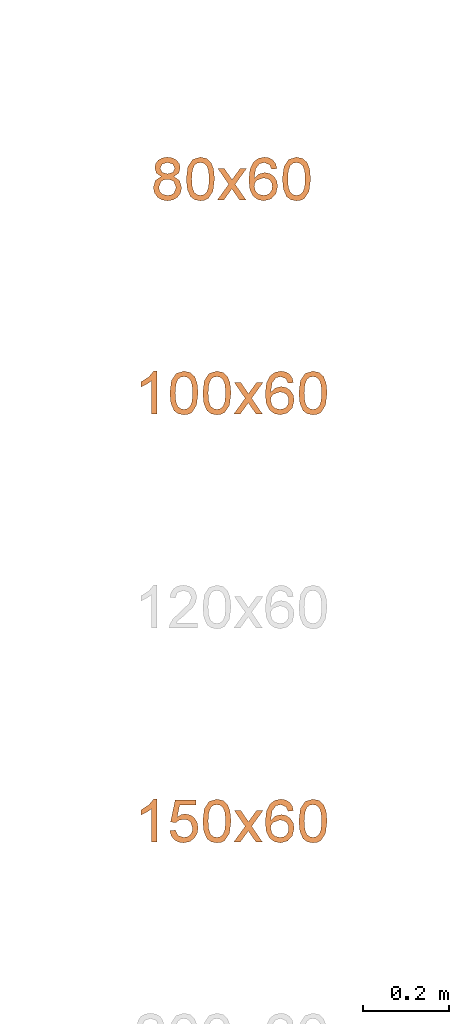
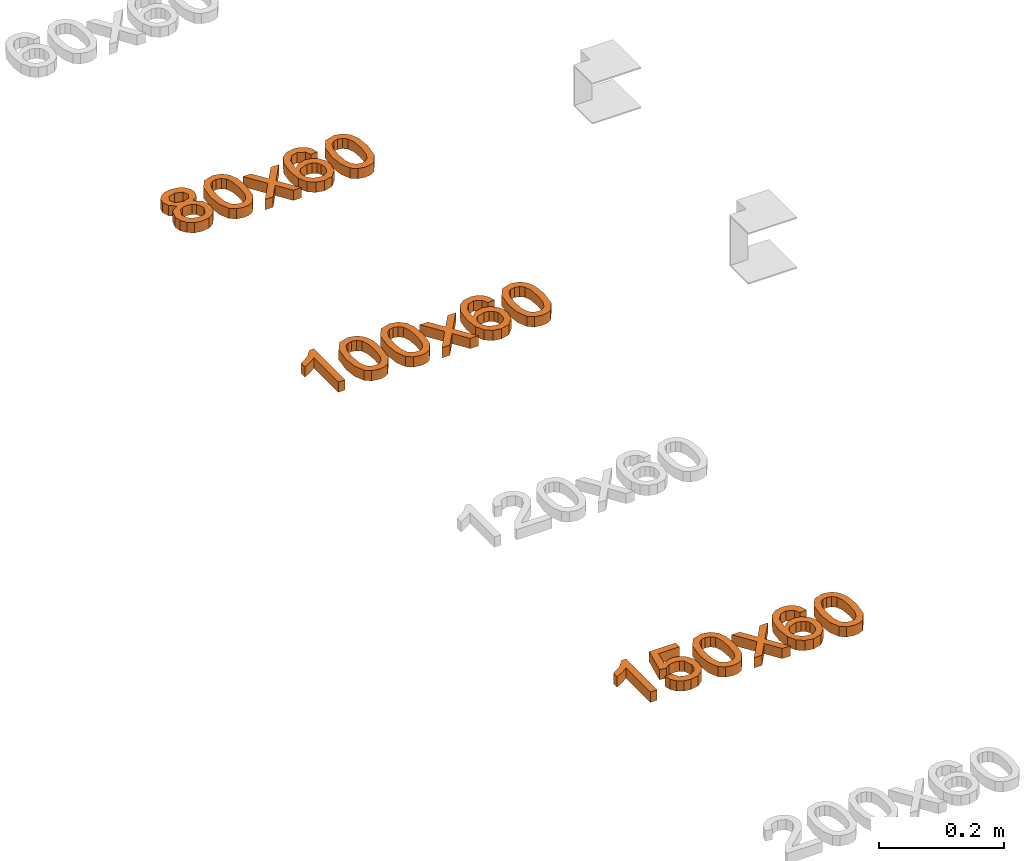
# One storey, part 53 of 71: 3 proxies.
"""IFC2X3 building model written with IfcOpenShell, lengths in millimetres."""

from ifc_helpers import new_model, entity, si_unit, converted_unit, derived_unit, direction, frame, origin, place, context, subcontext, project, spatial, polyline, outline, extrude, element, save


model = new_model("IFC2X3")

# Units and contexts
model_context = context("Model", 3, precision=0.01, world=origin(), true_north=direction((6.12303176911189e-17, 1.0)))
body_context = subcontext(model_context, "Body", "Model", "MODEL_VIEW")
ifc_project = project(units=[si_unit("LENGTHUNIT", "METRE", prefix="MILLI"), si_unit("AREAUNIT", "SQUARE_METRE"), si_unit("VOLUMEUNIT", "CUBIC_METRE"), converted_unit("PLANEANGLEUNIT", "DEGREE", entity("IfcRatioMeasure", 0.0174532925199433), si_unit("PLANEANGLEUNIT", "RADIAN"), dimensions=[0, 0, 0, 0, 0, 0, 0]), si_unit("MASSUNIT", "GRAM", prefix="KILO"), derived_unit("MASSDENSITYUNIT", [(si_unit("MASSUNIT", "GRAM", prefix="KILO"), 1), (si_unit("LENGTHUNIT", "METRE"), -3)]), si_unit("TIMEUNIT", "SECOND"), si_unit("FREQUENCYUNIT", "HERTZ"), si_unit("THERMODYNAMICTEMPERATUREUNIT", "DEGREE_CELSIUS"), derived_unit("THERMALTRANSMITTANCEUNIT", [(si_unit("MASSUNIT", "GRAM", prefix="KILO"), 1), (si_unit("THERMODYNAMICTEMPERATUREUNIT", "KELVIN"), -1), (si_unit("TIMEUNIT", "SECOND"), -3)]), derived_unit("VOLUMETRICFLOWRATEUNIT", [(si_unit("LENGTHUNIT", "METRE"), 3), (si_unit("TIMEUNIT", "SECOND"), -1)]), si_unit("ELECTRICCURRENTUNIT", "AMPERE"), si_unit("ELECTRICVOLTAGEUNIT", "VOLT"), si_unit("POWERUNIT", "WATT"), si_unit("FORCEUNIT", "NEWTON", prefix="KILO"), si_unit("ILLUMINANCEUNIT", "LUX"), si_unit("LUMINOUSFLUXUNIT", "LUMEN"), si_unit("LUMINOUSINTENSITYUNIT", "CANDELA"), derived_unit("USERDEFINED", [(si_unit("MASSUNIT", "GRAM", prefix="KILO"), -1), (si_unit("LENGTHUNIT", "METRE"), -2), (si_unit("TIMEUNIT", "SECOND"), 3), (si_unit("LUMINOUSFLUXUNIT", "LUMEN"), 1)]), derived_unit("LINEARVELOCITYUNIT", [(si_unit("LENGTHUNIT", "METRE"), 1), (si_unit("TIMEUNIT", "SECOND"), -1)]), si_unit("PRESSUREUNIT", "PASCAL"), derived_unit("USERDEFINED", [(si_unit("LENGTHUNIT", "METRE"), -2), (si_unit("MASSUNIT", "GRAM", prefix="KILO"), 1), (si_unit("TIMEUNIT", "SECOND"), -2)])], contexts=[model_context])

# Site, building, storey
site_placement = place(None, origin())
site = spatial("IfcSite", under=ifc_project, at=site_placement, Name="Default", CompositionType="ELEMENT")
building_placement = place(site_placement, origin())
building = spatial("IfcBuilding", under=site, at=building_placement, Name="Наименование здания", CompositionType="ELEMENT")
storey_placement = place(building_placement, origin())
storey = spatial("IfcBuildingStorey", under=building, at=storey_placement, Name="Этаж 01", CompositionType="ELEMENT", Elevation=0.0)

# Proxies
proxy_1_placement = place(storey_placement, origin())
element("IfcBuildingElementProxy", 1, at=proxy_1_placement, inside=storey, Name="Текст модели:100 мм Arial", ObjectType="Текст модели:100 мм Arial", context=body_context, shape_type="SweptSolid", body=[
    extrude(outline(polyline([(10.1224324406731, -11.221212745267), (26.4477736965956, -11.221212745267), (39.6861381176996, -0.0909413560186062), (44.6322314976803, 11.3078156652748), (44.5856416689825, 23.4168603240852), (39.6073830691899, 34.8346290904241), (29.7584701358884, 44.1595584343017), (17.4236057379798, 49.7956565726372), (4.9874927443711, 50.1469317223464), (-6.20047708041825, 45.7236060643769), (-14.790911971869, 37.0359017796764), (-20.0781666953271, 21.005684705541), (-14.5070621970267, 5.37692494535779), (-28.068405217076, 5.15563707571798), (-37.7221714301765, -2.60845010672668), (-41.5236361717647, -11.9357006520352), (-41.0036870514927, -22.2232653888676), (-36.1916154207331, -32.1870777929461), (-27.1167126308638, -40.5430713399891), (-16.0503295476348, -45.8123091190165), (-5.18246445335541, -46.570678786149), (4.38453303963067, -43.2361071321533), (11.5483133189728, -36.2265209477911), (15.2516244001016, -24.0826582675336), (10.1224324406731, -11.221212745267)]), holes=[polyline([(1.34077476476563, -28.9039041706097), (-7.53771017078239, -33.981587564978), (-20.2415350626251, -30.033997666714), (-28.5905650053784, -19.69028196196), (-26.9800933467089, -9.13787919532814), (-18.1108932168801, -3.87648928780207), (-5.45128168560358, -7.82385811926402), (3.15927028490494, -18.2403048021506), (1.34077476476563, -28.9039041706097)]), polyline([(29.0262968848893, 6.5605166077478), (17.1806533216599, -1.51571690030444), (9.6849412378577, -1.27757268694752), (1.95268767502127, 2.3288558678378), (-4.46267094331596, 8.2788688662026), (-7.64161156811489, 15.301055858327), (-4.59707955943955, 29.6929468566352), (7.31333657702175, 37.7994665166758), (14.8367372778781, 37.4872096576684), (22.6595729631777, 33.8012523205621), (30.3730358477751, 25.5864099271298), (32.5711030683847, 15.5727469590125), (29.0262968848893, 6.5605166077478)])]), frame((18091.8607415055, -411.654222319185, 0.0), z_axis=(0.0, 0.0, 1.0), x_axis=(-0.829266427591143, -0.558853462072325, 0.0)), (0.0, 0.0, 1.0), 20.0),
    extrude(outline(polyline([(-7.02884310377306, -33.349067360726), (17.5323805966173, -33.349067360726), (35.1984171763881, -27.6137612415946), (43.3439841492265, -18.4876517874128), (47.0516941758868, -5.75150665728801), (46.7162020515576, 4.4863820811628), (43.4465778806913, 13.095528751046), (27.9444305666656, 25.6659118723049), (-0.314338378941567, 32.2325535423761), (-24.0296505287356, 32.3678288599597), (-39.4143020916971, 28.0260881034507), (-49.7293680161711, 18.9002174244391), (-54.4436715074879, 4.63998875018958), (-50.8676582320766, -14.1301059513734), (-35.4058547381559, -26.7333390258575), (-7.02884310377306, -33.349067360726)]), holes=[polyline([(-5.77428774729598, -20.8548320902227), (-25.0157644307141, -17.356286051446), (-36.7257089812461, -11.571792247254), (-41.0962588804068, -4.77599682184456), (-41.9669219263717, 3.21464792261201), (-39.2244253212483, 11.2791292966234), (-32.8654063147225, 17.222925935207), (-20.9698370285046, 20.2947501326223), (-1.61768958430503, 19.7433141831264), (17.8514140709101, 16.2707701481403), (28.7803640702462, 10.7141596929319), (33.5546988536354, 3.61815959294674), (34.5599568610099, -4.47255337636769), (31.9421230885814, -12.1923199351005), (25.8471825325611, -18.1754808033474), (14.0250679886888, -21.4027476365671), (-5.77428774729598, -20.8548320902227)])]), frame((18169.7029366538, -417.512078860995, 0.0), z_axis=(0.0, 0.0, 1.0), x_axis=(0.1018515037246, -0.994799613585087, 0.0)), (0.0, 0.0, 1.0), 20.0),
    extrude(outline(polyline([(-34.530221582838, -38.4265006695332), (-19.422534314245, -38.4265006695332), (-0.341721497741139, -12.0616243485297), (2.47870713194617, -16.1328517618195), (17.8561745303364, -38.4265006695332), (32.9638617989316, -38.4265006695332), (7.40832586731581, -1.34399555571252), (33.944880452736, 35.3461020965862), (18.8371931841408, 35.3461020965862), (4.95577923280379, 16.1671874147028), (0.0261604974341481, 9.34910777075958), (-5.66374769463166, 17.6877663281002), (-17.8529044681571, 35.3461020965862), (-32.9605917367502, 35.3461020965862), (-7.6993614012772, -1.34399555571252), (-34.530221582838, -38.4265006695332)])), frame((18242.5445935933, -424.908755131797, 0.0)), (0.0, 0.0, 1.0), 20.0),
    extrude(outline(polyline([(6.79275401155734, -32.5027761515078), (18.3659045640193, -32.5027761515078), (28.1525204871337, -28.8011371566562), (35.631293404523, -21.7178704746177), (40.280914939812, -11.5729874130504), (41.4130789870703, 3.2366707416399), (36.1391243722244, 16.3729018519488), (21.8599739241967, 28.8803269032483), (-1.50836821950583, 38.2054593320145), (-23.6059131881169, 41.7609274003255), (-39.9814227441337, 38.5965283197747), (-51.1650797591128, 29.9216784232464), (-57.6870671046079, 16.9457940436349), (-57.9805556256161, -0.0494879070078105), (-49.2081886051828, -14.3141019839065), (-33.6167855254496, -22.935056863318), (-20.6265742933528, -24.2502330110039), (-8.97800352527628, -20.6254922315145), (0.0919027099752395, -13.0350962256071), (5.34612034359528, -2.45330669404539), (5.85483161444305, 11.6447254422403), (-0.843339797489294, 24.991063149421), (19.7707676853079, 15.5765036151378), (28.4840991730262, 4.26766164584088), (28.3893512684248, -7.46374532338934), (19.9956250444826, -18.1936336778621), (8.63303585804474, -19.9825396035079), (6.79275401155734, -32.5027761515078)]), holes=[polyline([(-18.758671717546, 29.9549594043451), (-11.632811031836, 26.3613362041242), (-6.94154076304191, 20.2038317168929), (-5.85783236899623, 4.13761066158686), (-9.48331864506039, -3.95286412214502), (-15.1077394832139, -9.26901644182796), (-22.3091633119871, -11.5969098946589), (-30.6656585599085, -10.7226080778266), (-38.6094491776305, -7.06141592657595), (-43.863709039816, -1.22509865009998), (-46.1835287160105, 6.17768396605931), (-45.323998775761, 14.5382721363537), (-39.690117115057, 24.7221971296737), (-30.0168134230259, 30.0585493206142), (-18.758671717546, 29.9549594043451)])]), frame((18318.2025234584, -404.787517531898, 0.0), z_axis=(0.0, 0.0, 1.0), x_axis=(-0.267015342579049, 0.963692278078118, 0.0)), (0.0, 0.0, 1.0), 20.0),
    extrude(outline(polyline([(-7.02884310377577, -33.3490673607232), (17.5323805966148, -33.3490673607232), (35.1984171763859, -27.6137612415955), (43.3439841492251, -18.4876517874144), (47.0516941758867, -5.75150665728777), (46.7162020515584, 4.48638208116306), (43.4465778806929, 13.0955287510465), (27.9444305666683, 25.6659118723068), (-0.314338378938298, 32.2325535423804), (-24.0296505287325, 32.367828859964), (-39.4143020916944, 28.0260881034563), (-49.7293680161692, 18.9002174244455), (-54.4436715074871, 4.6399887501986), (-50.8676582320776, -14.1301059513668), (-35.4058547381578, -26.7333390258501), (-7.02884310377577, -33.3490673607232)]), holes=[polyline([(-5.77428774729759, -20.85483209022), (-25.0157644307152, -17.3562860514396), (-36.7257089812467, -11.5717922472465), (-41.0962588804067, -4.77599682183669), (-41.9669219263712, 3.2146479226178), (-39.2244253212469, 11.2791292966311), (-32.8654063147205, 17.2229259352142), (-20.9698370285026, 20.2947501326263), (-1.61768958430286, 19.7433141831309), (17.851414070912, 16.270770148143), (28.7803640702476, 10.7141596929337), (33.5546988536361, 3.61815959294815), (34.5599568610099, -4.47255337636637), (31.9421230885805, -12.1923199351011), (25.8471825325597, -18.1754808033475), (14.0250679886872, -21.4027476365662), (-5.77428774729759, -20.85483209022)])]), frame((18394.1600046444, -417.512078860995, 0.0), z_axis=(0.0, 0.0, 1.0), x_axis=(0.101851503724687, -0.994799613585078, 0.0)), (0.0, 0.0, 1.0), 20.0),
])
proxy_2_placement = place(storey_placement, origin())
element("IfcBuildingElementProxy", 2, at=proxy_2_placement, inside=storey, Name="Текст модели:100 мм Arial", ObjectType="Текст модели:100 мм Arial", context=body_context, shape_type="SweptSolid", body=[
    extrude(outline(polyline([(-63.8793021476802, -16.9184842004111), (36.5770080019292, -16.9184842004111), (36.5770080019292, -8.82508030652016), (23.2106288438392, 2.34626961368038), (11.4629304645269, 20.7526321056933), (-0.407395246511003, 20.7526321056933), (5.93243780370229, 7.53340574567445), (14.4059864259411, -4.3614454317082), (-63.8793021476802, -4.3614454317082), (-63.8793021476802, -16.9184842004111)])), frame((18050.6140165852, -1899.45595365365, 0.0), z_axis=(0.0, 0.0, 1.0), x_axis=(0.0, 1.0, 0.0)), (0.0, 0.0, 1.0), 20.0),
    extrude(outline(polyline([(3.81439562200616, -37.2548959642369), (15.7323946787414, -37.2548959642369), (26.1588137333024, -33.0579698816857), (34.2921694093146, -25.0537205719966), (39.3309783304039, -13.6317508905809), (40.2219288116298, 1.43409098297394), (34.3991305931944, 14.6815107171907), (25.5350217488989, 23.1481891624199), (13.9054384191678, 28.2770976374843), (0.912111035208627, 29.4702838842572), (-10.7159258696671, 25.7768606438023), (-19.7427074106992, 18.0989984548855), (-24.9322687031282, 7.33886785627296), (-25.5937300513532, -2.21124798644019), (-22.6370240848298, -12.2793380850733), (-47.9924930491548, 0.0204883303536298), (-38.0977082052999, 37.2324069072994), (-50.2330599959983, 40.4592412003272), (-62.7370428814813, -6.56524698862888), (-15.5021967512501, -30.4943712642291), (-10.7584434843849, -18.7623737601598), (-14.4216298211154, -10.4922324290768), (-13.6981616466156, 0.722667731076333), (-9.98738154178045, 9.35727561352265), (-4.3255337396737, 14.6878856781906), (11.4370636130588, 15.9400687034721), (19.7481682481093, 12.2772427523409), (25.4355726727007, 6.4063224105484), (28.0665145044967, -1.27212018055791), (27.2082313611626, -10.3575128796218), (19.6530635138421, -21.92563193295), (5.52431094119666, -24.7161898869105), (3.81439562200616, -37.2548959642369)])), frame((18132.3790792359, -1923.39170175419, 0.0), z_axis=(0.0, 0.0, 1.0), x_axis=(0.256974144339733, -0.966418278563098, 0.0)), (0.0, 0.0, 1.0), 20.0),
    extrude(outline(polyline([(-7.02884310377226, -33.3490673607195), (17.5323805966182, -33.3490673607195), (35.198417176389, -27.6137612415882), (43.3439841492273, -18.4876517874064), (47.0516941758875, -5.75150665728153), (46.7162020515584, 4.48638208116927), (43.4465778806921, 13.0955287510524), (27.9444305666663, 25.6659118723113), (-0.314338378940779, 32.2325535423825), (-24.0296505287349, 32.3678288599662), (-39.4143020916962, 28.0260881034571), (-49.7293680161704, 18.9002174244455), (-54.4436715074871, 4.63998875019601), (-50.8676582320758, -14.130105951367), (-35.4058547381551, -26.7333390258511), (-7.02884310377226, -33.3490673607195)]), holes=[polyline([(-5.77428774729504, -20.8548320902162), (-25.0157644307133, -17.3562860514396), (-36.7257089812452, -11.5717922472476), (-41.0962588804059, -4.77599682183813), (-41.9669219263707, 3.21464792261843), (-39.2244253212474, 11.2791292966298), (-32.8654063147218, 17.2229259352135), (-20.9698370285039, 20.2947501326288), (-1.6176895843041, 19.7433141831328), (17.8514140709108, 16.2707701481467), (28.780364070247, 10.7141596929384), (33.5546988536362, 3.6181595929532), (34.5599568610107, -4.47255337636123), (31.9421230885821, -12.1923199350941), (25.8471825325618, -18.1754808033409), (14.0250679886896, -21.4027476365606), (-5.77428774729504, -20.8548320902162)])]), frame((18208.158867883, -1917.512078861, 0.0), z_axis=(0.0, 0.0, 1.0), x_axis=(0.1018515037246, -0.994799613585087, 0.0)), (0.0, 0.0, 1.0), 20.0),
    extrude(outline(polyline([(-34.530221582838, -38.4265006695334), (-19.422534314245, -38.4265006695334), (-0.341721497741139, -12.0616243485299), (2.47870713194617, -16.1328517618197), (17.8561745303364, -38.4265006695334), (32.9638617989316, -38.4265006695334), (7.40832586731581, -1.34399555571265), (33.944880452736, 35.3461020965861), (18.8371931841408, 35.3461020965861), (4.95577923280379, 16.1671874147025), (0.0261604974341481, 9.34910777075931), (-5.66374769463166, 17.6877663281), (-17.8529044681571, 35.3461020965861), (-32.9605917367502, 35.3461020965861), (-7.6993614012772, -1.34399555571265), (-34.530221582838, -38.4265006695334)])), frame((18281.0005248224, -1924.9087551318, 0.0)), (0.0, 0.0, 1.0), 20.0),
    extrude(outline(polyline([(6.79275401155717, -32.5027761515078), (18.365904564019, -32.5027761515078), (28.1525204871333, -28.8011371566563), (35.6312934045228, -21.7178704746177), (40.2809149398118, -11.5729874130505), (41.4130789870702, 3.23667074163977), (36.1391243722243, 16.3729018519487), (21.859973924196, 28.8803269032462), (-1.50836821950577, 38.2054593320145), (-23.605913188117, 41.7609274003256), (-39.9814227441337, 38.5965283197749), (-51.1650797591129, 29.9216784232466), (-57.6870671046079, 16.9457940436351), (-57.9805556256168, -0.0494879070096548), (-49.2081886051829, -14.3141019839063), (-33.6167855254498, -22.9350568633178), (-20.6265742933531, -24.2502330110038), (-8.97800352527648, -20.6254922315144), (0.0919027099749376, -13.035096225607), (5.34612034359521, -2.45330669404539), (5.85483161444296, 11.6447254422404), (-0.843339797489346, 24.991063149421), (19.770767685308, 15.5765036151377), (28.484099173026, 4.26766164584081), (28.3893512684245, -7.46374532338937), (19.9956250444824, -18.1936336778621), (8.63303585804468, -19.982539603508), (6.79275401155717, -32.5027761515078)]), holes=[polyline([(-18.7586717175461, 29.9549594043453), (-11.6328110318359, 26.3613362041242), (-6.94154076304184, 20.2038317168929), (-5.85783236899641, 4.13761066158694), (-9.48331864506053, -3.95286412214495), (-15.1077394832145, -9.26901644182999), (-22.3091633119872, -11.5969098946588), (-30.6656585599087, -10.7226080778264), (-38.6094491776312, -7.06141592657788), (-43.8637090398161, -1.22509865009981), (-46.1835287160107, 6.17768396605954), (-45.3239987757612, 14.5382721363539), (-39.6901171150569, 24.7221971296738), (-30.0168134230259, 30.0585493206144), (-18.7586717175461, 29.9549594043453)])]), frame((18356.6584546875, -1904.7875175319, 0.0), z_axis=(0.0, 0.0, 1.0), x_axis=(-0.267015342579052, 0.963692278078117, 0.0)), (0.0, 0.0, 1.0), 20.0),
    extrude(outline(polyline([(-7.0288431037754, -33.3490673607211), (17.5323805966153, -33.349067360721), (35.1984171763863, -27.6137612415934), (43.3439841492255, -18.4876517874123), (47.051694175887, -5.75150665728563), (46.7162020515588, 4.48638208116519), (43.4465778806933, 13.0955287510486), (27.9444305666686, 25.6659118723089), (-0.314338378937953, 32.2325535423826), (-24.0296505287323, 32.3678288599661), (-39.4143020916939, 28.0260881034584), (-49.729368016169, 18.9002174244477), (-54.4436715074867, 4.63998875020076), (-50.8676582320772, -14.1301059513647), (-35.4058547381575, -26.733339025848), (-7.0288431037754, -33.3490673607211)]), holes=[polyline([(-5.77428774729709, -20.8548320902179), (-25.0157644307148, -17.3562860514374), (-36.7257089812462, -11.5717922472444), (-41.0962588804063, -4.77599682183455), (-41.9669219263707, 3.21464792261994), (-39.2244253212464, 11.2791292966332), (-32.8654063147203, 17.2229259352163), (-20.9698370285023, 20.2947501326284), (-1.61768958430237, 19.743314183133), (17.8514140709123, 16.2707701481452), (28.7803640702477, 10.7141596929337), (33.5546988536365, 3.61815959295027), (34.5599568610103, -4.47255337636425), (31.9421230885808, -12.192319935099), (25.84718253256, -18.1754808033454), (14.0250679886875, -21.402747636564), (-5.77428774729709, -20.8548320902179)])]), frame((18432.6159358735, -1917.512078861, 0.0), z_axis=(0.0, 0.0, 1.0), x_axis=(0.101851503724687, -0.994799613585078, 0.0)), (0.0, 0.0, 1.0), 20.0),
])
proxy_3_placement = place(storey_placement, origin())
element("IfcBuildingElementProxy", 3, at=proxy_3_placement, inside=storey, Name="Текст модели:100 мм Arial", ObjectType="Текст модели:100 мм Arial", context=body_context, shape_type="SweptSolid", body=[
    extrude(outline(polyline([(-63.8793021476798, -16.9184842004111), (36.5770080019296, -16.9184842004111), (36.5770080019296, -8.82508030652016), (23.2106288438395, 2.34626961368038), (11.4629304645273, 20.7526321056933), (-0.407395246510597, 20.7526321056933), (5.93243780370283, 7.53340574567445), (14.4059864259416, -4.3614454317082), (-63.8793021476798, -4.3614454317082), (-63.8793021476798, -16.9184842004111)])), frame((18050.6140165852, -899.455953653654, 0.0), z_axis=(0.0, 0.0, 1.0), x_axis=(0.0, 1.0, 0.0)), (0.0, 0.0, 1.0), 20.0),
    extrude(outline(polyline([(-7.02884310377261, -33.3490673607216), (17.5323805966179, -33.3490673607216), (35.1984171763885, -27.6137612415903), (43.343984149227, -18.4876517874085), (47.0516941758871, -5.75150665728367), (46.716202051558, 4.48638208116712), (43.4465778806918, 13.0955287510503), (27.9444305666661, 25.6659118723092), (-0.314338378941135, 32.2325535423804), (-24.0296505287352, 32.367828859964), (-39.4143020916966, 28.026088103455), (-49.7293680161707, 18.9002174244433), (-54.4436715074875, 4.63998875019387), (-50.8676582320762, -14.1301059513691), (-35.4058547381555, -26.7333390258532), (-7.02884310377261, -33.3490673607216)]), holes=[polyline([(-5.77428774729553, -20.8548320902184), (-25.0157644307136, -17.3562860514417), (-36.7257089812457, -11.5717922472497), (-41.0962588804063, -4.77599682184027), (-41.9669219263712, 3.21464792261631), (-39.2244253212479, 11.2791292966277), (-32.865406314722, 17.2229259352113), (-20.9698370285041, 20.2947501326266), (-1.61768958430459, 19.7433141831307), (17.8514140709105, 16.2707701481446), (28.7803640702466, 10.7141596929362), (33.5546988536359, 3.61815959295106), (34.5599568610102, -4.47255337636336), (31.9421230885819, -12.1923199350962), (25.8471825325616, -18.1754808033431), (14.0250679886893, -21.4027476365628), (-5.77428774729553, -20.8548320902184)])]), frame((18131.2470054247, -917.512078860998, 0.0), z_axis=(0.0, 0.0, 1.0), x_axis=(0.1018515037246, -0.994799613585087, 0.0)), (0.0, 0.0, 1.0), 20.0),
    extrude(outline(polyline([(-7.02884310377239, -33.3490673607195), (17.5323805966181, -33.3490673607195), (35.1984171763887, -27.6137612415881), (43.3439841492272, -18.4876517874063), (47.0516941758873, -5.75150665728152), (46.7162020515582, 4.48638208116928), (43.446577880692, 13.0955287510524), (27.9444305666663, 25.6659118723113), (-0.314338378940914, 32.2325535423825), (-24.0296505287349, 32.3678288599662), (-39.4143020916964, 28.0260881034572), (-49.7293680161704, 18.9002174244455), (-54.4436715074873, 4.63998875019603), (-50.8676582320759, -14.130105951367), (-35.4058547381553, -26.7333390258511), (-7.02884310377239, -33.3490673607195)]), holes=[polyline([(-5.77428774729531, -20.8548320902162), (-25.0157644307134, -17.3562860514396), (-36.7257089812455, -11.5717922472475), (-41.096258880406, -4.77599682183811), (-41.966921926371, 3.21464792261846), (-39.2244253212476, 11.2791292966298), (-32.8654063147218, 17.2229259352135), (-20.9698370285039, 20.2947501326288), (-1.61768958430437, 19.7433141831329), (17.8514140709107, 16.2707701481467), (28.7803640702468, 10.7141596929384), (33.5546988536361, 3.61815959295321), (34.5599568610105, -4.47255337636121), (31.9421230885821, -12.1923199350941), (25.8471825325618, -18.1754808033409), (14.0250679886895, -21.4027476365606), (-5.77428774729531, -20.8548320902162)])]), frame((18208.158867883, -917.512078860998, 0.0), z_axis=(0.0, 0.0, 1.0), x_axis=(0.1018515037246, -0.994799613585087, 0.0)), (0.0, 0.0, 1.0), 20.0),
    extrude(outline(polyline([(-34.530221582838, -38.4265006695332), (-19.422534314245, -38.4265006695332), (-0.341721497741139, -12.0616243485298), (2.47870713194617, -16.1328517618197), (17.8561745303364, -38.4265006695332), (32.9638617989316, -38.4265006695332), (7.40832586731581, -1.34399555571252), (33.944880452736, 35.3461020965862), (18.8371931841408, 35.3461020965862), (4.95577923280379, 16.1671874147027), (0.0261604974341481, 9.34910777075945), (-5.66374769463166, 17.6877663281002), (-17.8529044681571, 35.3461020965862), (-32.9605917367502, 35.3461020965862), (-7.6993614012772, -1.34399555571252), (-34.530221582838, -38.4265006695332)])), frame((18281.0005248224, -924.9087551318, 0.0)), (0.0, 0.0, 1.0), 20.0),
    extrude(outline(polyline([(6.79275401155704, -32.5027761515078), (18.3659045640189, -32.5027761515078), (28.1525204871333, -28.8011371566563), (35.6312934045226, -21.7178704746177), (40.2809149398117, -11.5729874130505), (41.4130789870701, 3.23667074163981), (36.1391243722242, 16.3729018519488), (21.8599739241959, 28.8803269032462), (-1.50836821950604, 38.2054593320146), (-23.605913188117, 41.7609274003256), (-39.9814227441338, 38.596528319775), (-51.165079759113, 29.9216784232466), (-57.6870671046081, 16.9457940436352), (-57.9805556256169, -0.0494879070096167), (-49.2081886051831, -14.3141019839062), (-33.6167855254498, -22.9350568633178), (-20.6265742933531, -24.2502330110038), (-8.97800352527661, -20.6254922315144), (0.0919027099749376, -13.035096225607), (5.34612034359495, -2.45330669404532), (5.85483161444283, 11.6447254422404), (-0.843339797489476, 24.991063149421), (19.7707676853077, 15.5765036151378), (28.4840991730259, 4.26766164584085), (28.3893512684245, -7.46374532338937), (19.9956250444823, -18.1936336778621), (8.63303585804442, -19.9825396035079), (6.79275401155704, -32.5027761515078)]), holes=[polyline([(-18.7586717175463, 29.9549594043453), (-11.6328110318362, 26.3613362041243), (-6.9415407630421, 20.203831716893), (-5.85783236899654, 4.13761066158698), (-9.48331864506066, -3.95286412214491), (-15.1077394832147, -9.26901644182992), (-22.3091633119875, -11.5969098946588), (-30.6656585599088, -10.7226080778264), (-38.6094491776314, -7.0614159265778), (-43.8637090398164, -1.22509865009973), (-46.1835287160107, 6.17768396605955), (-45.3239987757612, 14.5382721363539), (-39.6901171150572, 24.7221971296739), (-30.0168134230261, 30.0585493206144), (-18.7586717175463, 29.9549594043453)])]), frame((18356.6584546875, -904.787517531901, 0.0), z_axis=(0.0, 0.0, 1.0), x_axis=(-0.267015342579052, 0.963692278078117, 0.0)), (0.0, 0.0, 1.0), 20.0),
    extrude(outline(polyline([(-7.02884310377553, -33.349067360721), (17.5323805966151, -33.349067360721), (35.1984171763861, -27.6137612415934), (43.3439841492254, -18.4876517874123), (47.0516941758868, -5.75150665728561), (46.7162020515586, 4.48638208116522), (43.4465778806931, 13.0955287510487), (27.9444305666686, 25.6659118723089), (-0.314338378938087, 32.2325535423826), (-24.0296505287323, 32.3678288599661), (-39.4143020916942, 28.0260881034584), (-49.729368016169, 18.9002174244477), (-54.4436715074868, 4.63998875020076), (-50.8676582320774, -14.1301059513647), (-35.4058547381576, -26.733339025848), (-7.02884310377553, -33.349067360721)]), holes=[polyline([(-5.77428774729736, -20.8548320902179), (-25.0157644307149, -17.3562860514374), (-36.7257089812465, -11.5717922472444), (-41.0962588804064, -4.77599682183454), (-41.9669219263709, 3.21464792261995), (-39.2244253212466, 11.2791292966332), (-32.8654063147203, 17.2229259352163), (-20.9698370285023, 20.2947501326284), (-1.61768958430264, 19.743314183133), (17.8514140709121, 16.2707701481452), (28.7803640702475, 10.7141596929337), (33.5546988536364, 3.6181595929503), (34.5599568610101, -4.47255337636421), (31.9421230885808, -12.192319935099), (25.84718253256, -18.1754808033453), (14.0250679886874, -21.402747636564), (-5.77428774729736, -20.8548320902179)])]), frame((18432.6159358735, -917.512078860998, 0.0), z_axis=(0.0, 0.0, 1.0), x_axis=(0.101851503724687, -0.994799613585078, 0.0)), (0.0, 0.0, 1.0), 20.0),
])

save(model, "model.ifc")
